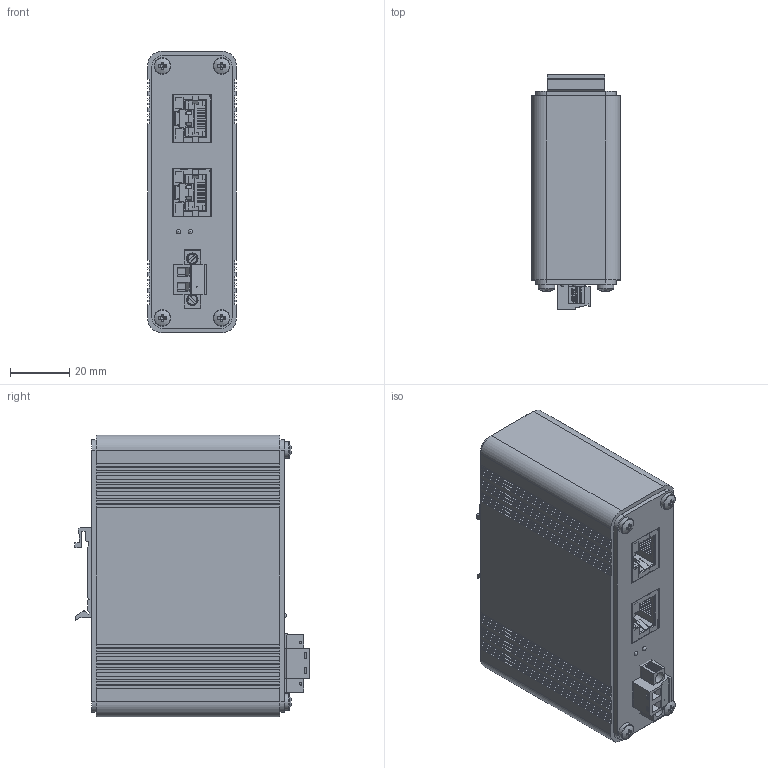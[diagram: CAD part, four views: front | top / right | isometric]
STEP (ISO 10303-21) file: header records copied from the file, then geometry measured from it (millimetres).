
FILE_DESCRIPTION(/* description */ (''),/* implementation_level */ '2;1');
FILE_NAME(/* name */ 'II-NA-0100-0003 v1.step',/* time_stamp */ '2024-09-30T11:25:33+02:00',/* author */ (''),/* organization */ (''),/* preprocessor_version */ 'ST-DEVELOPER v20',/* originating_system */ 'Autodesk Translation Framework v13.20.0.188',/* authorisation */ '');
FILE_SCHEMA (('AUTOMOTIVE_DESIGN { 1 0 10303 214 3 1 1 }'));
Products named in the file (6): II-NA-0100-0003; Digitus_DN-651107_LAN-Switch 19.5mm; LED; 15EDGKM-5.08-02P-14-00AH; 1 ports ethernet; 3M Screw
Assembly tree (10 placements, depth 2):
  II-NA-0100-0003
    LED  x2
    Digitus_DN-651107_LAN-Switch 19.5mm
    15EDGKM-5.08-02P-14-00AH
    1 ports ethernet  x2
    3M Screw  x4
Bounding box: 30 x 79.11 x 95 mm (x, y, z)
Volume: 26638.3 mm3; surface area: 53635.3 mm2
Topology: 11 solids, 11 shells, 1851 faces, 5160 edges, 3367 vertices
Faces by surface type: plane 1462, cylinder 174, bspline 144, cone 45, torus 22, sphere 4
Full cylindrical faces by diameter (mm): 0.8 x4, 1.2 x2, 1.5 x4, 1.9 x2, 2 x4, 2.08 x3, 2.5 x2, 2.6 x4, 2.8 x4, 3 x8, 3.6 x2, 3.85 x2, 5.6 x4
Entity records: 62025 total; most frequent: CARTESIAN_POINT 28501, ORIENTED_EDGE 7248, DIRECTION 6027, EDGE_CURVE 3624, LINE 2943, VECTOR 2943, VERTEX_POINT 2382, AXIS2_PLACEMENT_3D 1542
